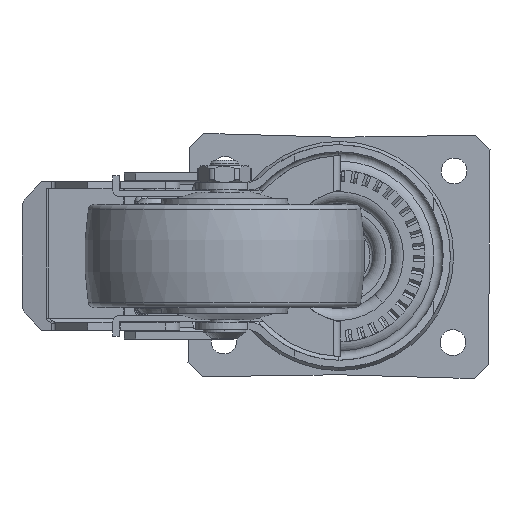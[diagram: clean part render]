
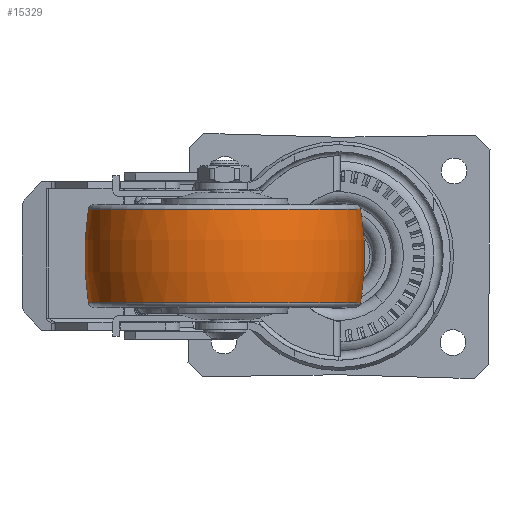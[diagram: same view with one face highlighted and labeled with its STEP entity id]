
A CAD part, front view. The second image highlights one B-rep face of the part: STEP entity #15329.
In plain terms, the highlighted toroidal (fillet/blend) face has major radius 51 mm and minor radius 100 mm.
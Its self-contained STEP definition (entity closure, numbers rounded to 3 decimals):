
#2261 = CARTESIAN_POINT ( 'NONE',  ( -83.292, -26.508, -20.334 ) ) ;
#2287 = CARTESIAN_POINT ( 'NONE',  ( 11.811, -20.132, -20.334 ) ) ;
#6518 = CIRCLE ( 'NONE', #6578, 100. ) ;
#6524 = DIRECTION ( 'NONE',  ( 0.998, 0.067, 0. ) ) ;
#6525 = DIRECTION ( 'NONE',  ( 0.067, -0.998, 0. ) ) ;
#6526 = CARTESIAN_POINT ( 'NONE',  ( 15.145, -19.909, -4.008 ) ) ;
#6533 = AXIS2_PLACEMENT_3D ( 'NONE', #6526, #6525, #6524 ) ;
#6536 = CIRCLE ( 'NONE', #6533, 100. ) ;
#6541 = CARTESIAN_POINT ( 'NONE',  ( -83.292, -26.508, 12.319 ) ) ;
#6551 = DIRECTION ( 'NONE',  ( -0.998, -0.067, 0. ) ) ;
#6552 = DIRECTION ( 'NONE',  ( 0., 0., -1. ) ) ;
#6553 = CARTESIAN_POINT ( 'NONE',  ( -35.741, -23.32, -20.334 ) ) ;
#6556 = AXIS2_PLACEMENT_3D ( 'NONE', #6553, #6552, #6551 ) ;
#6567 = CIRCLE ( 'NONE', #6556, 47.658 ) ;
#6574 = CARTESIAN_POINT ( 'NONE',  ( 11.811, -20.132, 12.319 ) ) ;
#6575 = DIRECTION ( 'NONE',  ( -0.998, -0.067, 0. ) ) ;
#6576 = DIRECTION ( 'NONE',  ( -0.067, 0.998, 0. ) ) ;
#6577 = CARTESIAN_POINT ( 'NONE',  ( -86.627, -26.732, -4.008 ) ) ;
#6578 = AXIS2_PLACEMENT_3D ( 'NONE', #6577, #6576, #6575 ) ;
#6630 = AXIS2_PLACEMENT_3D ( 'NONE', #6661, #6653, #6712 ) ;
#6653 = DIRECTION ( 'NONE',  ( 0., 0., -1. ) ) ;
#6654 = DIRECTION ( 'NONE',  ( -0.998, -0.067, 0. ) ) ;
#6655 = DIRECTION ( 'NONE',  ( 0., 0., -1. ) ) ;
#6656 = CARTESIAN_POINT ( 'NONE',  ( -35.741, -23.32, 12.319 ) ) ;
#6658 = CIRCLE ( 'NONE', #6676, 47.658 ) ;
#6661 = CARTESIAN_POINT ( 'NONE',  ( -35.741, -23.32, -4.008 ) ) ;
#6662 = FACE_OUTER_BOUND ( 'NONE', #15318, .T. ) ;
#6668 = TOROIDAL_SURFACE ( 'NONE', #6630, -51., 100. ) ;
#6676 = AXIS2_PLACEMENT_3D ( 'NONE', #6656, #6655, #6654 ) ;
#6712 = DIRECTION ( 'NONE',  ( -0.998, -0.067, 0. ) ) ;
#10756 = VERTEX_POINT ( 'NONE', #2287 ) ;
#10783 = VERTEX_POINT ( 'NONE', #2261 ) ;
#15184 = EDGE_CURVE ( 'NONE', #15191, #10783, #6536, .T. ) ;
#15189 = EDGE_CURVE ( 'NONE', #15197, #10756, #6518, .T. ) ;
#15191 = VERTEX_POINT ( 'NONE', #6541 ) ;
#15197 = VERTEX_POINT ( 'NONE', #6574 ) ;
#15205 = ORIENTED_EDGE ( 'NONE', *, *, #15320, .T. ) ;
#15206 = EDGE_CURVE ( 'NONE', #10756, #10783, #6567, .T. ) ;
#15228 = ORIENTED_EDGE ( 'NONE', *, *, #15189, .F. ) ;
#15295 = ORIENTED_EDGE ( 'NONE', *, *, #15184, .T. ) ;
#15318 = EDGE_LOOP ( 'NONE', ( #15228, #15205, #15295, #15319 ) ) ;
#15319 = ORIENTED_EDGE ( 'NONE', *, *, #15206, .F. ) ;
#15320 = EDGE_CURVE ( 'NONE', #15197, #15191, #6658, .T. ) ;
#15329 = ADVANCED_FACE ( 'NONE', ( #6662 ), #6668, .T. ) ;
